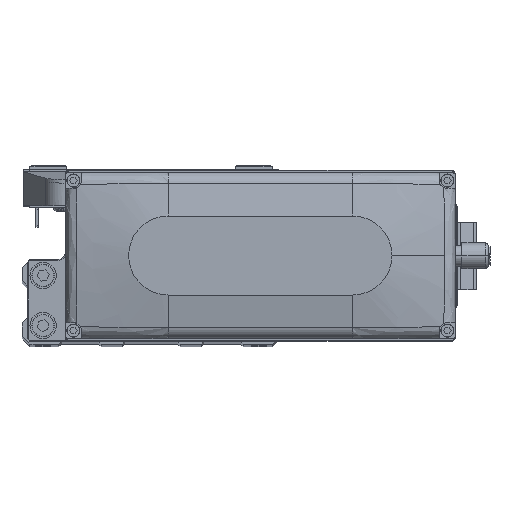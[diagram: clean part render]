
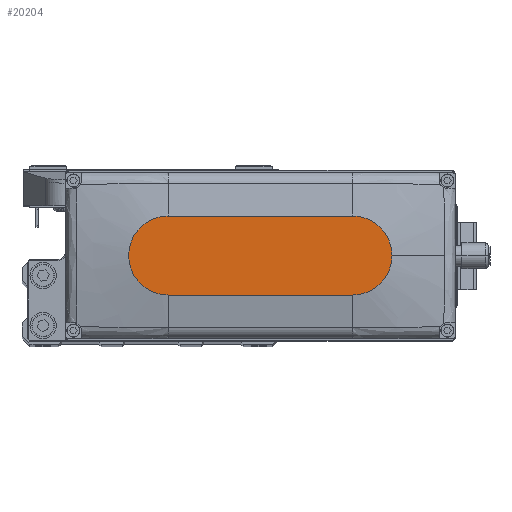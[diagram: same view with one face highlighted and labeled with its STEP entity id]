
A CAD part, top view. The second image highlights one B-rep face of the part: STEP entity #20204.
In plain terms, the highlighted planar face has unit normal (0, 0, 1).
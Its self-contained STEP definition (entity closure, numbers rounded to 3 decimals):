
#1 = CIRCLE ( 'NONE', #25747, 15. ) ;
#1992 = DIRECTION ( 'NONE',  ( 0., 0., 1. ) ) ;
#2675 = VECTOR ( 'NONE', #10490, 1000. ) ;
#4307 = CIRCLE ( 'NONE', #30059, 15. ) ;
#4782 = VERTEX_POINT ( 'NONE', #8688 ) ;
#4884 = CARTESIAN_POINT ( 'NONE',  ( -35., -15., 35. ) ) ;
#6313 = DIRECTION ( 'NONE',  ( 0., 0., 1. ) ) ;
#6370 = CIRCLE ( 'NONE', #32155, 15. ) ;
#6491 = EDGE_CURVE ( 'NONE', #18773, #26284, #4307, .T. ) ;
#6565 = DIRECTION ( 'NONE',  ( 0., 0., 1. ) ) ;
#6729 = CARTESIAN_POINT ( 'NONE',  ( 35., 15., 35. ) ) ;
#7392 = EDGE_CURVE ( 'NONE', #26284, #34379, #6370, .T. ) ;
#8688 = CARTESIAN_POINT ( 'NONE',  ( -35., 15., 35. ) ) ;
#8761 = ORIENTED_EDGE ( 'NONE', *, *, #41862, .T. ) ;
#9224 = CARTESIAN_POINT ( 'NONE',  ( 50., 0., 35. ) ) ;
#9676 = ORIENTED_EDGE ( 'NONE', *, *, #13673, .T. ) ;
#10490 = DIRECTION ( 'NONE',  ( -1., 0., 0. ) ) ;
#11094 = CARTESIAN_POINT ( 'NONE',  ( 0., 0., 35. ) ) ;
#11764 = EDGE_CURVE ( 'NONE', #4782, #17108, #1, .T. ) ;
#12744 = ORIENTED_EDGE ( 'NONE', *, *, #7392, .T. ) ;
#13673 = EDGE_CURVE ( 'NONE', #17108, #18773, #36464, .T. ) ;
#13906 = EDGE_LOOP ( 'NONE', ( #8761, #24973, #9676, #40747, #12744 ) ) ;
#16011 = DIRECTION ( 'NONE',  ( 1., 0., 0. ) ) ;
#17108 = VERTEX_POINT ( 'NONE', #33302 ) ;
#18773 = VERTEX_POINT ( 'NONE', #25423 ) ;
#18913 = DIRECTION ( 'NONE',  ( 1., 0., 0. ) ) ;
#20204 = ADVANCED_FACE ( 'NONE', ( #28628 ), #42690, .T. ) ;
#20350 = DIRECTION ( 'NONE',  ( 1., 0., 0. ) ) ;
#20604 = DIRECTION ( 'NONE',  ( 1., 0., 0. ) ) ;
#24973 = ORIENTED_EDGE ( 'NONE', *, *, #11764, .T. ) ;
#25161 = DIRECTION ( 'NONE',  ( 0., 0., 1. ) ) ;
#25423 = CARTESIAN_POINT ( 'NONE',  ( 35., -15., 35. ) ) ;
#25747 = AXIS2_PLACEMENT_3D ( 'NONE', #38140, #6565, #20604 ) ;
#26284 = VERTEX_POINT ( 'NONE', #9224 ) ;
#28033 = LINE ( 'NONE', #42092, #2675 ) ;
#28628 = FACE_OUTER_BOUND ( 'NONE', #13906, .T. ) ;
#30059 = AXIS2_PLACEMENT_3D ( 'NONE', #33569, #1992, #16011 ) ;
#32155 = AXIS2_PLACEMENT_3D ( 'NONE', #37898, #6313, #20350 ) ;
#33302 = CARTESIAN_POINT ( 'NONE',  ( -35., -15., 35. ) ) ;
#33569 = CARTESIAN_POINT ( 'NONE',  ( 35., 0., 35. ) ) ;
#34379 = VERTEX_POINT ( 'NONE', #6729 ) ;
#36464 = LINE ( 'NONE', #4884, #37892 ) ;
#37892 = VECTOR ( 'NONE', #18913, 1000. ) ;
#37898 = CARTESIAN_POINT ( 'NONE',  ( 35., 0., 35. ) ) ;
#38092 = AXIS2_PLACEMENT_3D ( 'NONE', #11094, #25161, #39236 ) ;
#38140 = CARTESIAN_POINT ( 'NONE',  ( -35., 0., 35. ) ) ;
#39236 = DIRECTION ( 'NONE',  ( 1., 0., 0. ) ) ;
#40747 = ORIENTED_EDGE ( 'NONE', *, *, #6491, .T. ) ;
#41862 = EDGE_CURVE ( 'NONE', #34379, #4782, #28033, .T. ) ;
#42092 = CARTESIAN_POINT ( 'NONE',  ( -35., 15., 35. ) ) ;
#42690 = PLANE ( 'NONE',  #38092 ) ;
